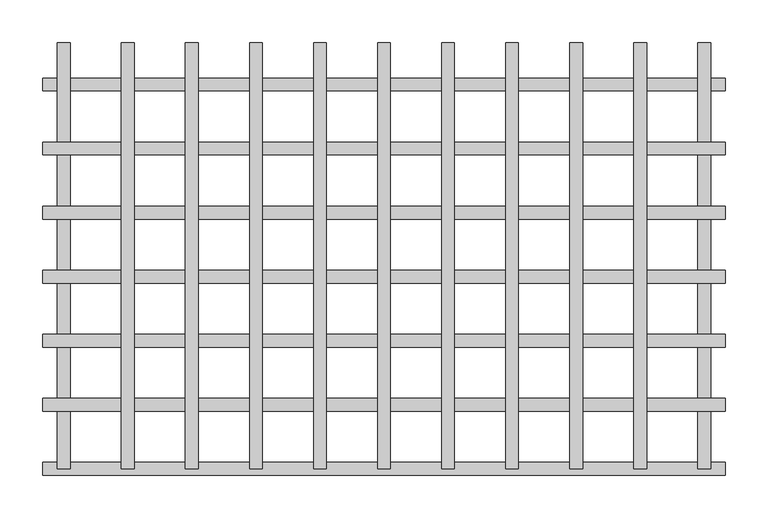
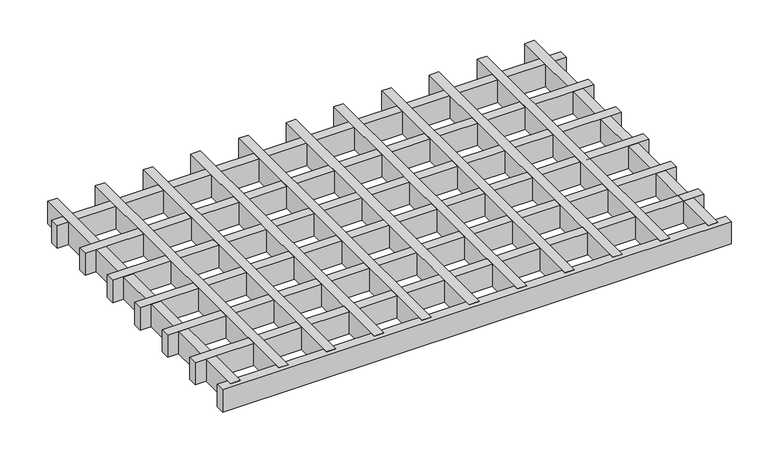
"""IFC4 building model written with IfcOpenShell, lengths in millimetres: proxy geometry, durlum_GEO_panel : durlum_GEO_15_corner_cut."""

from ifc_helpers import new_model, si_unit, origin, origin_with_axes, place, context, project, spatial, polyline, outline, extrude, source, transform, mapped, element, save


def generic_models_36cb1d09(model_context):
    return source(origin(), model_context, "Body", "SweptSolid", [
        extrude(outline(polyline([(292.5, 249.5), (307.5, 249.5), (307.5, -249.5), (292.5, -249.5), (292.5, 249.5)])), origin_with_axes(), (0.0, 0.0, 1.0), 37.0),
        extrude(outline(polyline([(217.5, 249.5), (232.5, 249.5), (232.5, -249.5), (217.5, -249.5), (217.5, 249.5)])), origin_with_axes(), (0.0, 0.0, 1.0), 37.0),
        extrude(outline(polyline([(142.5, 249.5), (157.5, 249.5), (157.5, -249.5), (142.5, -249.5), (142.5, 249.5)])), origin_with_axes(), (0.0, 0.0, 1.0), 37.0),
        extrude(outline(polyline([(67.5, 249.5), (82.5, 249.5), (82.5, -249.5), (67.5, -249.5), (67.5, 249.5)])), origin_with_axes(), (0.0, 0.0, 1.0), 37.0),
        extrude(outline(polyline([(-7.5, 249.5), (7.5, 249.5), (7.5, -249.5), (-7.5, -249.5), (-7.5, 249.5)])), origin_with_axes(), (0.0, 0.0, 1.0), 37.0),
        extrude(outline(polyline([(-82.5, 249.5), (-67.5, 249.5), (-67.5, -249.5), (-82.5, -249.5), (-82.5, 249.5)])), origin_with_axes(), (0.0, 0.0, 1.0), 37.0),
        extrude(outline(polyline([(-157.5, 249.5), (-142.5, 249.5), (-142.5, -249.5), (-157.5, -249.5), (-157.5, 249.5)])), origin_with_axes(), (0.0, 0.0, 1.0), 37.0),
        extrude(outline(polyline([(-232.5, 249.5), (-217.5, 249.5), (-217.5, -249.5), (-232.5, -249.5), (-232.5, 249.5)])), origin_with_axes(), (0.0, 0.0, 1.0), 37.0),
        extrude(outline(polyline([(-307.5, 249.5), (-292.5, 249.5), (-292.5, -249.5), (-307.5, -249.5), (-307.5, 249.5)])), origin_with_axes(), (0.0, 0.0, 1.0), 37.0),
        extrude(outline(polyline([(399.75, -167.0), (399.75, -182.0), (-399.75, -182.0), (-399.75, -167.0), (399.75, -167.0)])), origin_with_axes(), (0.0, 0.0, 1.0), 37.0),
        extrude(outline(polyline([(399.75, -92.0), (399.75, -107.0), (-399.75, -107.0), (-399.75, -92.0), (399.75, -92.0)])), origin_with_axes(), (0.0, 0.0, 1.0), 37.0),
        extrude(outline(polyline([(399.75, -17.0), (399.75, -32.0), (-399.75, -32.0), (-399.75, -17.0), (399.75, -17.0)])), origin_with_axes(), (0.0, 0.0, 1.0), 37.0),
        extrude(outline(polyline([(399.75, 58.0), (399.75, 43.0), (-399.75, 43.0), (-399.75, 58.0), (399.75, 58.0)])), origin_with_axes(), (0.0, 0.0, 1.0), 37.0),
        extrude(outline(polyline([(399.75, 133.0), (399.75, 118.0), (-399.75, 118.0), (-399.75, 133.0), (399.75, 133.0)])), origin_with_axes(), (0.0, 0.0, 1.0), 37.0),
        extrude(outline(polyline([(367.5, 249.5), (382.5, 249.5), (382.5, -249.5), (367.5, -249.5), (367.5, 249.5)])), origin_with_axes(), (0.0, 0.0, 1.0), 37.0),
        extrude(outline(polyline([(-382.5, 249.5), (-367.5, 249.5), (-367.5, -249.5), (-382.5, -249.5), (-382.5, 249.5)])), origin_with_axes(), (0.0, 0.0, 1.0), 37.0),
        extrude(outline(polyline([(399.75, -242.0), (399.75, -257.0), (-399.75, -257.0), (-399.75, -242.0), (399.75, -242.0)])), origin_with_axes(), (0.0, 0.0, 1.0), 37.0),
        extrude(outline(polyline([(399.75, 208.0), (399.75, 193.0), (-399.75, 193.0), (-399.75, 208.0), (399.75, 208.0)])), origin_with_axes(), (0.0, 0.0, 1.0), 37.0),
    ])


if __name__ == "__main__":
    model = new_model("IFC4")
    model_context = context("Model", 3, world=origin())
    ifc_project = project(units=[si_unit("LENGTHUNIT", "METRE", prefix="MILLI")], contexts=[model_context])
    site = spatial("IfcSite", under=ifc_project)
    building = spatial("IfcBuilding", under=site)
    placement = place(None, origin())
    generic_models_shape = generic_models_36cb1d09(model_context)
    element("IfcBuildingElementProxy", 1, Name="durlum_GEO_panel : durlum_GEO_15_corner_cut", ObjectType="durlum_GEO_panel : durlum_GEO_15_corner_cut", at=placement, inside=building, context=model_context, shape_type="MappedRepresentation", body=[
        mapped(generic_models_shape, transform((0.0, 0.0, 0.0), x_axis=(1.0, 0.0, 0.0), y_axis=(0.0, 1.0, 0.0), z_axis=(0.0, 0.0, 1.0))),
    ])
    save(model, "model.ifc")
